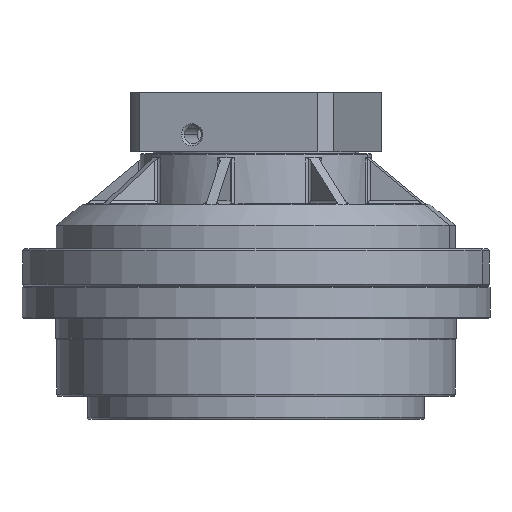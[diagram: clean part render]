
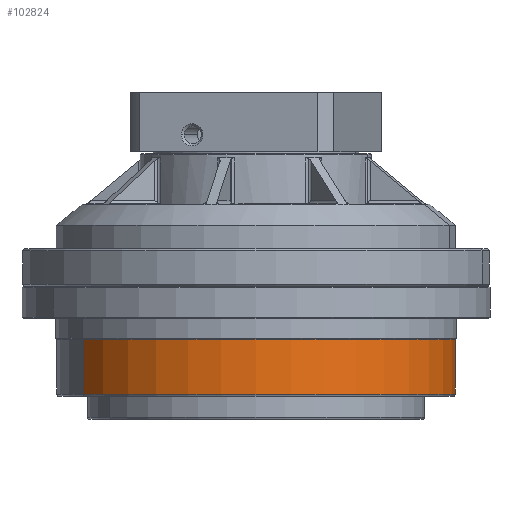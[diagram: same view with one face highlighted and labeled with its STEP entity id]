
A CAD part, left-side view. The second image highlights one B-rep face of the part: STEP entity #102824.
In plain terms, the highlighted cylindrical face has radius 94.5 mm (diameter 189 mm), a partial arc.
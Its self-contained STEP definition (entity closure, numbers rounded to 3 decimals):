
#292 = FACE_OUTER_BOUND ( 'NONE', #47719, .T. ) ;
#576 = ORIENTED_EDGE ( 'NONE', *, *, #64358, .T. ) ;
#9462 = CYLINDRICAL_SURFACE ( 'NONE', #86697, 94.5 ) ;
#12398 = VECTOR ( 'NONE', #126993, 1000. ) ;
#14955 = EDGE_CURVE ( 'NONE', #107954, #110922, #125505, .T. ) ;
#17115 = CARTESIAN_POINT ( 'NONE',  ( -94.5, 0., -10. ) ) ;
#17177 = VERTEX_POINT ( 'NONE', #27328 ) ;
#18198 = VECTOR ( 'NONE', #58730, 1000. ) ;
#19006 = EDGE_CURVE ( 'NONE', #17177, #59287, #84659, .T. ) ;
#21948 = AXIS2_PLACEMENT_3D ( 'NONE', #97993, #47669, #118218 ) ;
#26968 = CARTESIAN_POINT ( 'NONE',  ( 0., 0., -10. ) ) ;
#27328 = CARTESIAN_POINT ( 'NONE',  ( 94.5, 0., -36. ) ) ;
#40371 = CARTESIAN_POINT ( 'NONE',  ( 94.5, 0., -10. ) ) ;
#47669 = DIRECTION ( 'NONE',  ( 0., 0., -1. ) ) ;
#47719 = EDGE_LOOP ( 'NONE', ( #72517, #576, #129101, #89283 ) ) ;
#49365 = CARTESIAN_POINT ( 'NONE',  ( 0., 0., -10. ) ) ;
#50541 = CARTESIAN_POINT ( 'NONE',  ( -94.5, 0., -10. ) ) ;
#58730 = DIRECTION ( 'NONE',  ( 0., 0., -1. ) ) ;
#59287 = VERTEX_POINT ( 'NONE', #95165 ) ;
#61302 = LINE ( 'NONE', #40371, #18198 ) ;
#64358 = EDGE_CURVE ( 'NONE', #107954, #59287, #124425, .T. ) ;
#72517 = ORIENTED_EDGE ( 'NONE', *, *, #14955, .F. ) ;
#78592 = DIRECTION ( 'NONE',  ( 1., 0., 0. ) ) ;
#84659 = CIRCLE ( 'NONE', #21948, 94.5 ) ;
#86697 = AXIS2_PLACEMENT_3D ( 'NONE', #49365, #89212, #128456 ) ;
#89212 = DIRECTION ( 'NONE',  ( 0., 0., -1. ) ) ;
#89283 = ORIENTED_EDGE ( 'NONE', *, *, #104361, .F. ) ;
#95165 = CARTESIAN_POINT ( 'NONE',  ( -94.5, 0., -36. ) ) ;
#97993 = CARTESIAN_POINT ( 'NONE',  ( 0., 0., -36. ) ) ;
#99534 = DIRECTION ( 'NONE',  ( 0., 0., 1. ) ) ;
#102824 = ADVANCED_FACE ( 'NONE', ( #292 ), #9462, .T. ) ;
#104361 = EDGE_CURVE ( 'NONE', #110922, #17177, #61302, .T. ) ;
#107954 = VERTEX_POINT ( 'NONE', #50541 ) ;
#110922 = VERTEX_POINT ( 'NONE', #124750 ) ;
#118218 = DIRECTION ( 'NONE',  ( 1., 0., 0. ) ) ;
#119217 = AXIS2_PLACEMENT_3D ( 'NONE', #26968, #99534, #78592 ) ;
#124425 = LINE ( 'NONE', #17115, #12398 ) ;
#124750 = CARTESIAN_POINT ( 'NONE',  ( 94.5, 0., -10. ) ) ;
#125505 = CIRCLE ( 'NONE', #119217, 94.5 ) ;
#126993 = DIRECTION ( 'NONE',  ( 0., 0., -1. ) ) ;
#128456 = DIRECTION ( 'NONE',  ( 1., 0., 0. ) ) ;
#129101 = ORIENTED_EDGE ( 'NONE', *, *, #19006, .F. ) ;
